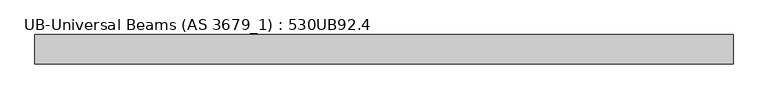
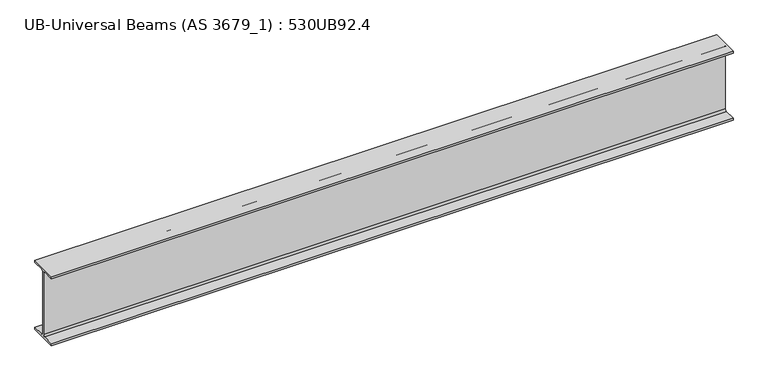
"""IFC4 building model written with IfcOpenShell, lengths in millimetres: beam geometry, UB-Universal Beams (AS 3679_1) : 530UB92.4."""

import ifcopenshell
import ifcopenshell.guid

model = None  # the IFC model being written
_history = None  # IfcOwnerHistory: only IFC2X3 demands one
_inside = {}  # id of a spatial element -> (the spatial element, [elements in it])
_under = {}  # id of a project, library or spatial element -> (it, [spatial elements below it])
_declared = {}  # id of a project -> (the project, [libraries it declares])
_typed = {}  # id of a type object -> (the type object, [elements of that type])
_made_of = {}  # id of a material, layer set ... -> (it, [elements and type objects made of it])


def new_model(schema):
    """Start an empty IFC model of exactly this schema.

    Asked for "IFC4X3", IfcOpenShell would pick the latest addendum, in which some entities
    have other attributes; the version numbers below select the first issue.
    IFC2X3 requires an IfcOwnerHistory on every rooted entity: one is made here for all.
    """
    global model, _history
    if schema == "IFC4X3":
        model = ifcopenshell.file(schema_version=(4, 3, 0, 0))
    else:
        model = ifcopenshell.file(schema=schema)
    _inside.clear()
    _under.clear()
    _declared.clear()
    _typed.clear()
    _made_of.clear()
    _history = None
    if model.schema == "IFC2X3":
        org = make("IfcOrganization", Name="unknown")
        user = make(
            "IfcPersonAndOrganization",
            ThePerson=make("IfcPerson", FamilyName="unknown"),
            TheOrganization=org,
        )
        app = make(
            "IfcApplication",
            ApplicationDeveloper=org,
            Version="unknown",
            ApplicationFullName="unknown",
            ApplicationIdentifier="unknown",
        )
        _history = make(
            "IfcOwnerHistory",
            OwningUser=user,
            OwningApplication=app,
            ChangeAction="ADDED",
            CreationDate=0,
        )
    return model


def make(cls, **values):
    """One entity of the class cls with the attributes given. An attribute that is None is left unset."""
    return model.create_entity(
        cls, **{name: value for name, value in values.items() if value is not None}
    )


def rooted(cls, **values):
    """An entity with a GlobalId (a new one), such as an element, a storey or a relation."""
    return make(cls, GlobalId=ifcopenshell.guid.new(), OwnerHistory=_history, **values)


def si_unit(unit_type, name, prefix=None):
    """IfcSIUnit, for example si_unit("LENGTHUNIT", "METRE", prefix="MILLI")."""
    return make("IfcSIUnit", UnitType=unit_type, Prefix=prefix, Name=name)


def assignment(units):
    """IfcUnitAssignment: the units of a project."""
    return None if units is None else make("IfcUnitAssignment", Units=units)


def point(xyz):
    """IfcCartesianPoint."""
    return None if xyz is None else make("IfcCartesianPoint", Coordinates=xyz)


def direction(xyz):
    """IfcDirection."""
    return None if xyz is None else make("IfcDirection", DirectionRatios=xyz)


def frame(location, z_axis=None, x_axis=None):
    """IfcAxis2Placement3D, a coordinate frame: its origin and axes. An axis left out is left unset."""
    return make(
        "IfcAxis2Placement3D",
        Location=point(location),
        Axis=direction(z_axis),
        RefDirection=direction(x_axis),
    )


def frame_2d(location, x_axis=None):
    """IfcAxis2Placement2D, a coordinate frame in the plane: its origin and x axis."""
    return make(
        "IfcAxis2Placement2D", Location=point(location), RefDirection=direction(x_axis)
    )


def origin():
    """The frame at (0, 0, 0) with its axes left unset."""
    return frame((0.0, 0.0, 0.0))


def place(relative_to, where):
    """IfcLocalPlacement: puts the frame where relative to a parent placement (None: the world)."""
    return make(
        "IfcLocalPlacement", PlacementRelTo=relative_to, RelativePlacement=where
    )


def context(
    kind, dimensions, precision=None, world=None, true_north=None, identifier=None
):
    """IfcGeometricRepresentationContext, for example the 3D "Model" context."""
    return make(
        "IfcGeometricRepresentationContext",
        ContextIdentifier=identifier,
        ContextType=kind,
        CoordinateSpaceDimension=dimensions,
        Precision=precision,
        WorldCoordinateSystem=world,
        TrueNorth=true_north,
    )


def project(units=None, contexts=None):
    """IfcProject with its units and contexts."""
    return rooted(
        "IfcProject",
        Name="project",
        RepresentationContexts=contexts,
        UnitsInContext=assignment(units),
    )


def spatial(cls, under=None, at=None, **own):
    """A site, building, storey or space (cls), placed at a placement, below another one or the project."""
    s = rooted(cls, ObjectPlacement=at, **own)
    if under is not None:
        _under.setdefault(under.id(), (under, []))[1].append(s)
    return s


def polyline(points):
    """IfcPolyline through the points."""
    return make("IfcPolyline", Points=[point(p) for p in points])


def circle_curve(where, radius):
    """IfcCircle in the frame where."""
    return make("IfcCircle", Position=where, Radius=radius)


def trimmed(basis, trim1, trim2, sense, master):
    """IfcTrimmedCurve: the piece of a basis curve between two trims."""
    return make(
        "IfcTrimmedCurve",
        BasisCurve=basis,
        Trim1=trim1,
        Trim2=trim2,
        SenseAgreement=sense,
        MasterRepresentation=master,
    )


def segment(curve, same_sense, transition):
    """IfcCompositeCurveSegment."""
    return make(
        "IfcCompositeCurveSegment",
        Transition=transition,
        SameSense=same_sense,
        ParentCurve=curve,
    )


def composite_curve(segments, self_intersect=None):
    """IfcCompositeCurve: segments joined end to end."""
    return make("IfcCompositeCurve", Segments=segments, SelfIntersect=self_intersect)


def outline(outer, holes=None, kind="AREA"):
    """IfcArbitraryClosedProfileDef: a profile drawn as a closed curve; with holes, ...WithVoids."""
    if holes is None:
        return make("IfcArbitraryClosedProfileDef", ProfileType=kind, OuterCurve=outer)
    return make(
        "IfcArbitraryProfileDefWithVoids",
        ProfileType=kind,
        OuterCurve=outer,
        InnerCurves=holes,
    )


def extrude(swept, where, along, depth):
    """IfcExtrudedAreaSolid: the profile swept, set in the frame where, extruded along a direction by depth."""
    return make(
        "IfcExtrudedAreaSolid",
        SweptArea=swept,
        Position=where,
        ExtrudedDirection=direction(along),
        Depth=depth,
    )


def shape(context_of_items, identifier, shape_type, items):
    """IfcShapeRepresentation: the items that make up one representation, for example the "Body"."""
    return make(
        "IfcShapeRepresentation",
        ContextOfItems=context_of_items,
        RepresentationIdentifier=identifier,
        RepresentationType=shape_type,
        Items=items,
    )


def source(mapping_origin, context_of_items, identifier, shape_type, items):
    """IfcRepresentationMap: a shape defined once, which mapped items show again and again."""
    return make(
        "IfcRepresentationMap",
        MappingOrigin=mapping_origin,
        MappedRepresentation=shape(context_of_items, identifier, shape_type, items),
    )


def transform(
    local_origin,
    x_axis=None,
    y_axis=None,
    z_axis=None,
    scale=None,
    scale2=None,
    scale3=None,
    uniform=True,
):
    """IfcCartesianTransformationOperator3D, or its non-uniform kind. x_axis, y_axis, z_axis: its Axis1, 2, 3."""
    if uniform:
        return make(
            "IfcCartesianTransformationOperator3D",
            Axis1=direction(x_axis),
            Axis2=direction(y_axis),
            LocalOrigin=point(local_origin),
            Scale=scale,
            Axis3=direction(z_axis),
        )
    return make(
        "IfcCartesianTransformationOperator3DnonUniform",
        Axis1=direction(x_axis),
        Axis2=direction(y_axis),
        LocalOrigin=point(local_origin),
        Scale=scale,
        Axis3=direction(z_axis),
        Scale2=scale2,
        Scale3=scale3,
    )


def mapped(mapping_source, mapping_target):
    """IfcMappedItem: shows the shape of a source again, moved by a transform."""
    return make(
        "IfcMappedItem", MappingSource=mapping_source, MappingTarget=mapping_target
    )


def made_of(thing, what):
    """Note that an element or type object is made of a material, layer set ...; save() writes the relation."""
    if what is not None:
        _made_of.setdefault(what.id(), (what, []))[1].append(thing)
    return thing


def element(
    cls,
    number,
    at=None,
    inside=None,
    cuts=None,
    type_object=None,
    material=None,
    context=None,
    identifier="Body",
    shape_type=None,
    held_by="IfcProductDefinitionShape",
    body=None,
    shapes=None,
    **own,
):
    """One element of the class cls, such as IfcWall. Its Tag is "e" and its number.

    at: its placement. inside: the storey or other place that contains it. cuts: it is an
    opening in that element (IfcRelVoidsElement). A single representation is given by context,
    identifier, shape_type and body (its items); several are given by shapes. held_by: the class
    of the entity that holds the representations. save() writes the other relations.
    """
    e = rooted(cls, Tag="e%d" % number, ObjectPlacement=at, **own)
    if body is not None:
        shapes = [shape(context, identifier, shape_type, body)]
    if shapes is not None:
        e.Representation = make(held_by, Representations=shapes)
    if inside is not None:
        _inside.setdefault(inside.id(), (inside, []))[1].append(e)
    if cuts is not None:
        rooted(
            "IfcRelVoidsElement", RelatingBuildingElement=cuts, RelatedOpeningElement=e
        )
    if type_object is not None:
        _typed.setdefault(type_object.id(), (type_object, []))[1].append(e)
    return made_of(e, material)


def aggregate(whole, parts):
    """IfcRelAggregates: a whole, such as a stair, and the parts it consists of."""
    return rooted("IfcRelAggregates", RelatingObject=whole, RelatedObjects=parts)


def save(model, path):
    """Write the relations noted so far, then the file.

    IfcRelAggregates (storeys below a building ...), IfcRelContainedInSpatialStructure (elements
    in a storey), IfcRelDefinesByType, IfcRelAssociatesMaterial and IfcRelDeclares: one each for
    every whole, place, type object, material and project.
    """
    for whole, parts in _under.values():
        aggregate(whole, parts)
    for where, things in _inside.values():
        rooted(
            "IfcRelContainedInSpatialStructure",
            RelatedElements=things,
            RelatingStructure=where,
        )
    for kind, things in _typed.values():
        rooted("IfcRelDefinesByType", RelatedObjects=things, RelatingType=kind)
    for what, things in _made_of.values():
        rooted("IfcRelAssociatesMaterial", RelatedObjects=things, RelatingMaterial=what)
    for by, libraries in _declared.values():
        rooted("IfcRelDeclares", RelatingContext=by, RelatedDefinitions=libraries)
    model.write(path)


def ub_universal_beams_as_3679_1_530ub92_4_e068ee1b(model_context):
    return source(origin(), model_context, "Body", "SweptSolid", [
        extrude(outline(composite_curve([segment(polyline([(104.5, -250.9), (104.5, -266.5), (-104.5, -266.5), (-104.5, -250.9), (-19.1, -250.9)]), True, "CONTINUOUS"), segment(trimmed(circle_curve(frame_2d((-19.1, -236.9)), 14.0), [point((-19.1, -250.9))], [point((-5.1, -236.9))], True, "CARTESIAN"), True, "CONTINUOUS"), segment(polyline([(-5.1, -236.9), (-5.1, 236.9)]), True, "CONTINUOUS"), segment(trimmed(circle_curve(frame_2d((-19.1, 236.9)), 14.0), [point((-5.1, 236.9))], [point((-19.1, 250.9))], True, "CARTESIAN"), True, "CONTINUOUS"), segment(polyline([(-19.1, 250.9), (-104.5, 250.9), (-104.5, 266.5), (104.5, 266.5), (104.5, 250.9), (19.1, 250.9)]), True, "CONTINUOUS"), segment(trimmed(circle_curve(frame_2d((19.1, 236.9)), 14.0), [point((19.1, 250.9))], [point((5.1, 236.9))], True, "CARTESIAN"), True, "CONTINUOUS"), segment(polyline([(5.1, 236.9), (5.1, -236.9)]), True, "CONTINUOUS"), segment(trimmed(circle_curve(frame_2d((19.1, -236.9)), 14.0), [point((5.1, -236.9))], [point((19.1, -250.9))], True, "CARTESIAN"), True, "CONTINUOUS"), segment(polyline([(19.1, -250.9), (104.5, -250.9)]), True, "CONTINUOUS")], self_intersect=False)), frame((-2522.2, 0.0, 0.0), z_axis=(1.0, 0.0, 0.0), x_axis=(0.0, 1.0, 0.0)), (0.0, 0.0, 1.0), 4969.8),
    ])


if __name__ == "__main__":
    model = new_model("IFC4")
    model_context = context("Model", 3, world=origin())
    ifc_project = project(units=[si_unit("LENGTHUNIT", "METRE", prefix="MILLI")], contexts=[model_context])
    site = spatial("IfcSite", under=ifc_project)
    building = spatial("IfcBuilding", under=site)
    placement = place(None, origin())
    ub_universal_beams_as_3679_1_530ub92_4_shape = ub_universal_beams_as_3679_1_530ub92_4_e068ee1b(model_context)
    element("IfcBeam", 1, ObjectType="UB-Universal Beams (AS 3679_1) : 530UB92.4", at=placement, inside=building, context=model_context, shape_type="MappedRepresentation", body=[
        mapped(ub_universal_beams_as_3679_1_530ub92_4_shape, transform((0.0, 0.0, 0.0), x_axis=(1.0, 0.0, 0.0), y_axis=(0.0, 1.0, 0.0), z_axis=(0.0, 0.0, 1.0))),
    ])
    save(model, "model.ifc")
